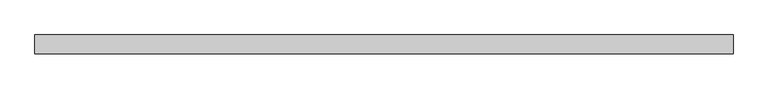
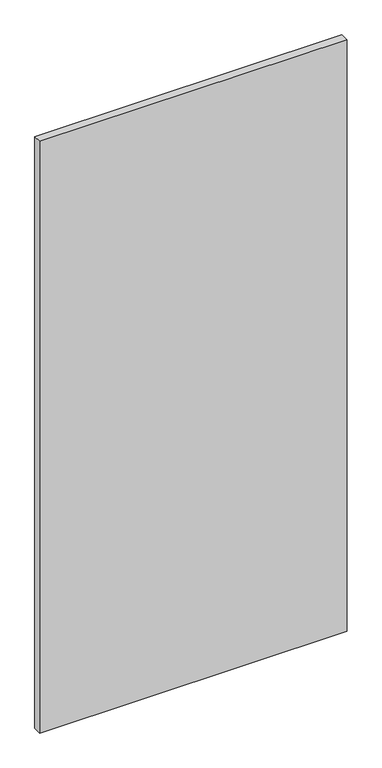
"""IFC4 building model written with IfcOpenShell, lengths in millimetres: plate geometry, Vitré."""

from ifc_helpers import new_model, si_unit, origin, origin_with_axes, place, context, project, spatial, polyline, outline, extrude, source, transform, mapped, element, save


def plate_cea2b96d(model_context):
    return source(origin(), model_context, "Body", "SweptSolid", [
        extrude(outline(polyline([(-744.7239958, -20.0), (-744.7239958, 20.0), (744.7239958, 20.0), (744.7239958, -20.0), (-744.7239958, -20.0)])), origin_with_axes(), (0.0, 0.0, 1.0), 3030.0),
    ])


if __name__ == "__main__":
    model = new_model("IFC4")
    model_context = context("Model", 3, world=origin())
    ifc_project = project(units=[si_unit("LENGTHUNIT", "METRE", prefix="MILLI")], contexts=[model_context])
    site = spatial("IfcSite", under=ifc_project)
    building = spatial("IfcBuilding", under=site)
    placement = place(None, origin())
    plate_shape = plate_cea2b96d(model_context)
    element("IfcPlate", 1, ObjectType="Vitré", at=placement, inside=building, context=model_context, shape_type="MappedRepresentation", body=[
        mapped(plate_shape, transform((0.0, 0.0, 0.0), x_axis=(1.0, 0.0, 0.0), y_axis=(0.0, 1.0, 0.0), z_axis=(0.0, 0.0, 1.0))),
    ])
    save(model, "model.ifc")
